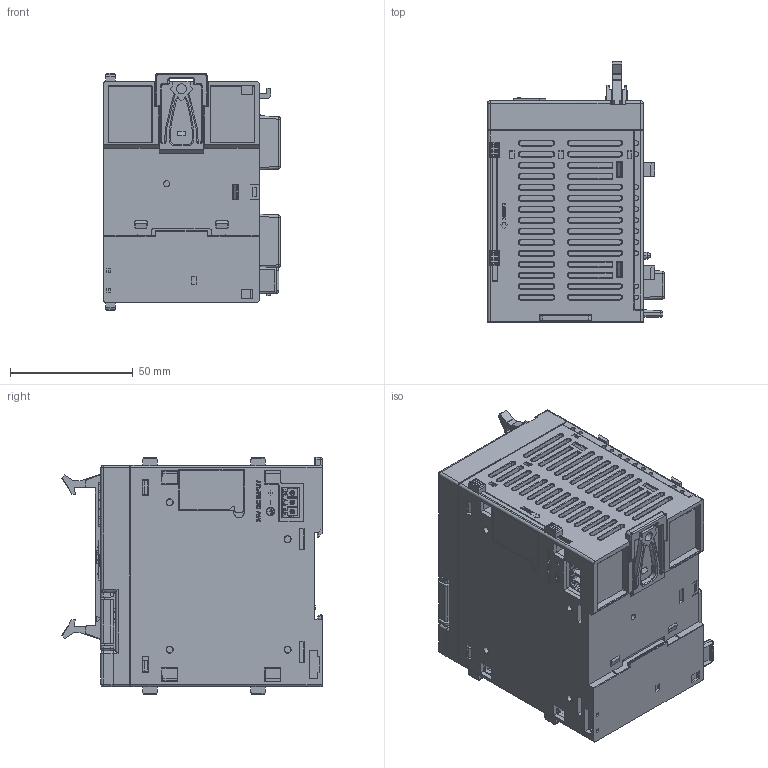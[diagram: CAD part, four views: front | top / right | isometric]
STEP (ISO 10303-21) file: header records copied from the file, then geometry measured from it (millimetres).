
FILE_DESCRIPTION((''),'2;1');
FILE_NAME('XCPU-MAIN-BODY-DOWN-COVER','2022-09-14T21:49:25',('Jacky Chang'),(''),'CREO PARAMETRIC BY PTC INC, 2021284','CREO PARAMETRIC BY PTC INC, 2021284','');
FILE_SCHEMA(('CONFIG_CONTROL_DESIGN','SHAPE_APPEARANCE_LAYERS_GROUPS'));
Products named in the file (1): XCPU-MAIN-BODY-DOWN-COVER
Bounding box: 71.9 x 105.83 x 96.6 mm (x, y, z)
Volume: 486852.8 mm3; surface area: 71294.8 mm2
Topology: 4 solids, 11 shells, 5296 faces, 14126 edges, 8990 vertices
Faces by surface type: plane 3718, cylinder 971, torus 197, cone 170, extrusion 135, bspline 54, sphere 51
Entity records: 222354 total; most frequent: CARTESIAN_POINT 34778, ORIENTED_EDGE 28188, DIRECTION 25956, PRESENTATION_STYLE_ASSIGNMENT 15966, STYLED_ITEM 14113, CURVE_STYLE 14109, EDGE_CURVE 14094, VECTOR 11308
